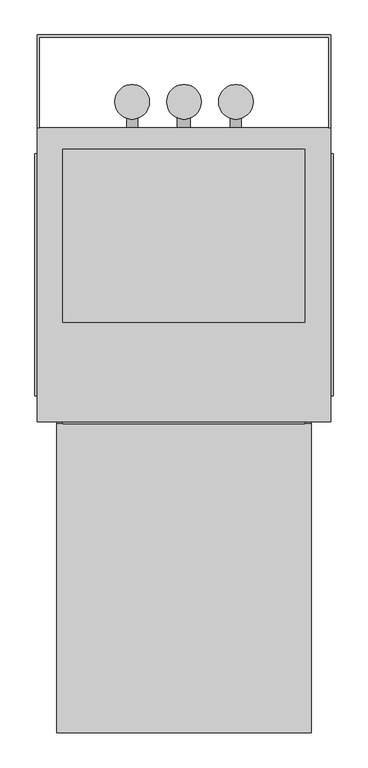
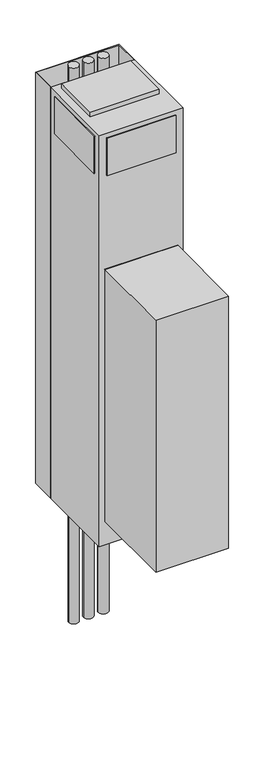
"""IFC4 building model written with IfcOpenShell, lengths in millimetres: proxy geometry, Exposed_Modular_Fan_Coil_Unit_-_MXY_-_IEC_-_2-Pipe_Cool-EHeat_-_WithRisers_2022 : Size 03 - 277v/60Hz/1Ph - 4 Row 3.0kW."""

import ifcopenshell
import ifcopenshell.guid

model = None  # the IFC model being written
_history = None  # IfcOwnerHistory: only IFC2X3 demands one
_inside = {}  # id of a spatial element -> (the spatial element, [elements in it])
_under = {}  # id of a project, library or spatial element -> (it, [spatial elements below it])
_declared = {}  # id of a project -> (the project, [libraries it declares])
_typed = {}  # id of a type object -> (the type object, [elements of that type])
_made_of = {}  # id of a material, layer set ... -> (it, [elements and type objects made of it])


def new_model(schema):
    """Start an empty IFC model of exactly this schema.

    Asked for "IFC4X3", IfcOpenShell would pick the latest addendum, in which some entities
    have other attributes; the version numbers below select the first issue.
    IFC2X3 requires an IfcOwnerHistory on every rooted entity: one is made here for all.
    """
    global model, _history
    if schema == "IFC4X3":
        model = ifcopenshell.file(schema_version=(4, 3, 0, 0))
    else:
        model = ifcopenshell.file(schema=schema)
    _inside.clear()
    _under.clear()
    _declared.clear()
    _typed.clear()
    _made_of.clear()
    _history = None
    if model.schema == "IFC2X3":
        org = make("IfcOrganization", Name="unknown")
        user = make(
            "IfcPersonAndOrganization",
            ThePerson=make("IfcPerson", FamilyName="unknown"),
            TheOrganization=org,
        )
        app = make(
            "IfcApplication",
            ApplicationDeveloper=org,
            Version="unknown",
            ApplicationFullName="unknown",
            ApplicationIdentifier="unknown",
        )
        _history = make(
            "IfcOwnerHistory",
            OwningUser=user,
            OwningApplication=app,
            ChangeAction="ADDED",
            CreationDate=0,
        )
    return model


def make(cls, **values):
    """One entity of the class cls with the attributes given. An attribute that is None is left unset."""
    return model.create_entity(
        cls, **{name: value for name, value in values.items() if value is not None}
    )


def rooted(cls, **values):
    """An entity with a GlobalId (a new one), such as an element, a storey or a relation."""
    return make(cls, GlobalId=ifcopenshell.guid.new(), OwnerHistory=_history, **values)


def si_unit(unit_type, name, prefix=None):
    """IfcSIUnit, for example si_unit("LENGTHUNIT", "METRE", prefix="MILLI")."""
    return make("IfcSIUnit", UnitType=unit_type, Prefix=prefix, Name=name)


def assignment(units):
    """IfcUnitAssignment: the units of a project."""
    return None if units is None else make("IfcUnitAssignment", Units=units)


def point(xyz):
    """IfcCartesianPoint."""
    return None if xyz is None else make("IfcCartesianPoint", Coordinates=xyz)


def direction(xyz):
    """IfcDirection."""
    return None if xyz is None else make("IfcDirection", DirectionRatios=xyz)


def frame(location, z_axis=None, x_axis=None):
    """IfcAxis2Placement3D, a coordinate frame: its origin and axes. An axis left out is left unset."""
    return make(
        "IfcAxis2Placement3D",
        Location=point(location),
        Axis=direction(z_axis),
        RefDirection=direction(x_axis),
    )


def frame_2d(location, x_axis=None):
    """IfcAxis2Placement2D, a coordinate frame in the plane: its origin and x axis."""
    return make(
        "IfcAxis2Placement2D", Location=point(location), RefDirection=direction(x_axis)
    )


def origin():
    """The frame at (0, 0, 0) with its axes left unset."""
    return frame((0.0, 0.0, 0.0))


def origin_with_axes():
    """The frame at (0, 0, 0) with the z axis (0, 0, 1) and the x axis (1, 0, 0) written out."""
    return frame((0.0, 0.0, 0.0), z_axis=(0.0, 0.0, 1.0), x_axis=(1.0, 0.0, 0.0))


def place(relative_to, where):
    """IfcLocalPlacement: puts the frame where relative to a parent placement (None: the world)."""
    return make(
        "IfcLocalPlacement", PlacementRelTo=relative_to, RelativePlacement=where
    )


def context(
    kind, dimensions, precision=None, world=None, true_north=None, identifier=None
):
    """IfcGeometricRepresentationContext, for example the 3D "Model" context."""
    return make(
        "IfcGeometricRepresentationContext",
        ContextIdentifier=identifier,
        ContextType=kind,
        CoordinateSpaceDimension=dimensions,
        Precision=precision,
        WorldCoordinateSystem=world,
        TrueNorth=true_north,
    )


def project(units=None, contexts=None):
    """IfcProject with its units and contexts."""
    return rooted(
        "IfcProject",
        Name="project",
        RepresentationContexts=contexts,
        UnitsInContext=assignment(units),
    )


def spatial(cls, under=None, at=None, **own):
    """A site, building, storey or space (cls), placed at a placement, below another one or the project."""
    s = rooted(cls, ObjectPlacement=at, **own)
    if under is not None:
        _under.setdefault(under.id(), (under, []))[1].append(s)
    return s


def polyline(points):
    """IfcPolyline through the points."""
    return make("IfcPolyline", Points=[point(p) for p in points])


def circle_curve(where, radius):
    """IfcCircle in the frame where."""
    return make("IfcCircle", Position=where, Radius=radius)


def trimmed(basis, trim1, trim2, sense, master):
    """IfcTrimmedCurve: the piece of a basis curve between two trims."""
    return make(
        "IfcTrimmedCurve",
        BasisCurve=basis,
        Trim1=trim1,
        Trim2=trim2,
        SenseAgreement=sense,
        MasterRepresentation=master,
    )


def segment(curve, same_sense, transition):
    """IfcCompositeCurveSegment."""
    return make(
        "IfcCompositeCurveSegment",
        Transition=transition,
        SameSense=same_sense,
        ParentCurve=curve,
    )


def composite_curve(segments, self_intersect=None):
    """IfcCompositeCurve: segments joined end to end."""
    return make("IfcCompositeCurve", Segments=segments, SelfIntersect=self_intersect)


def outline(outer, holes=None, kind="AREA"):
    """IfcArbitraryClosedProfileDef: a profile drawn as a closed curve; with holes, ...WithVoids."""
    if holes is None:
        return make("IfcArbitraryClosedProfileDef", ProfileType=kind, OuterCurve=outer)
    return make(
        "IfcArbitraryProfileDefWithVoids",
        ProfileType=kind,
        OuterCurve=outer,
        InnerCurves=holes,
    )


def extrude(swept, where, along, depth):
    """IfcExtrudedAreaSolid: the profile swept, set in the frame where, extruded along a direction by depth."""
    return make(
        "IfcExtrudedAreaSolid",
        SweptArea=swept,
        Position=where,
        ExtrudedDirection=direction(along),
        Depth=depth,
    )


def shape(context_of_items, identifier, shape_type, items):
    """IfcShapeRepresentation: the items that make up one representation, for example the "Body"."""
    return make(
        "IfcShapeRepresentation",
        ContextOfItems=context_of_items,
        RepresentationIdentifier=identifier,
        RepresentationType=shape_type,
        Items=items,
    )


def source(mapping_origin, context_of_items, identifier, shape_type, items):
    """IfcRepresentationMap: a shape defined once, which mapped items show again and again."""
    return make(
        "IfcRepresentationMap",
        MappingOrigin=mapping_origin,
        MappedRepresentation=shape(context_of_items, identifier, shape_type, items),
    )


def transform(
    local_origin,
    x_axis=None,
    y_axis=None,
    z_axis=None,
    scale=None,
    scale2=None,
    scale3=None,
    uniform=True,
):
    """IfcCartesianTransformationOperator3D, or its non-uniform kind. x_axis, y_axis, z_axis: its Axis1, 2, 3."""
    if uniform:
        return make(
            "IfcCartesianTransformationOperator3D",
            Axis1=direction(x_axis),
            Axis2=direction(y_axis),
            LocalOrigin=point(local_origin),
            Scale=scale,
            Axis3=direction(z_axis),
        )
    return make(
        "IfcCartesianTransformationOperator3DnonUniform",
        Axis1=direction(x_axis),
        Axis2=direction(y_axis),
        LocalOrigin=point(local_origin),
        Scale=scale,
        Axis3=direction(z_axis),
        Scale2=scale2,
        Scale3=scale3,
    )


def mapped(mapping_source, mapping_target):
    """IfcMappedItem: shows the shape of a source again, moved by a transform."""
    return make(
        "IfcMappedItem", MappingSource=mapping_source, MappingTarget=mapping_target
    )


def made_of(thing, what):
    """Note that an element or type object is made of a material, layer set ...; save() writes the relation."""
    if what is not None:
        _made_of.setdefault(what.id(), (what, []))[1].append(thing)
    return thing


def element(
    cls,
    number,
    at=None,
    inside=None,
    cuts=None,
    type_object=None,
    material=None,
    context=None,
    identifier="Body",
    shape_type=None,
    held_by="IfcProductDefinitionShape",
    body=None,
    shapes=None,
    **own,
):
    """One element of the class cls, such as IfcWall. Its Tag is "e" and its number.

    at: its placement. inside: the storey or other place that contains it. cuts: it is an
    opening in that element (IfcRelVoidsElement). A single representation is given by context,
    identifier, shape_type and body (its items); several are given by shapes. held_by: the class
    of the entity that holds the representations. save() writes the other relations.
    """
    e = rooted(cls, Tag="e%d" % number, ObjectPlacement=at, **own)
    if body is not None:
        shapes = [shape(context, identifier, shape_type, body)]
    if shapes is not None:
        e.Representation = make(held_by, Representations=shapes)
    if inside is not None:
        _inside.setdefault(inside.id(), (inside, []))[1].append(e)
    if cuts is not None:
        rooted(
            "IfcRelVoidsElement", RelatingBuildingElement=cuts, RelatedOpeningElement=e
        )
    if type_object is not None:
        _typed.setdefault(type_object.id(), (type_object, []))[1].append(e)
    return made_of(e, material)


def aggregate(whole, parts):
    """IfcRelAggregates: a whole, such as a stair, and the parts it consists of."""
    return rooted("IfcRelAggregates", RelatingObject=whole, RelatedObjects=parts)


def save(model, path):
    """Write the relations noted so far, then the file.

    IfcRelAggregates (storeys below a building ...), IfcRelContainedInSpatialStructure (elements
    in a storey), IfcRelDefinesByType, IfcRelAssociatesMaterial and IfcRelDeclares: one each for
    every whole, place, type object, material and project.
    """
    for whole, parts in _under.values():
        aggregate(whole, parts)
    for where, things in _inside.values():
        rooted(
            "IfcRelContainedInSpatialStructure",
            RelatedElements=things,
            RelatingStructure=where,
        )
    for kind, things in _typed.values():
        rooted("IfcRelDefinesByType", RelatedObjects=things, RelatingType=kind)
    for what, things in _made_of.values():
        rooted("IfcRelAssociatesMaterial", RelatedObjects=things, RelatingMaterial=what)
    for by, libraries in _declared.values():
        rooted("IfcRelDeclares", RelatingContext=by, RelatedDefinitions=libraries)
    model.write(path)


def mechanical_equipment_f6d8de75(model_context):
    return source(origin(), model_context, "Body", "SweptSolid", [
        extrude(outline(polyline([(1356.1480703, 439.8118862), (1346.2, 471.9852728), (1488.3709244, 471.9852728), (1465.3489183, 439.8118862), (1356.1480703, 439.8118862)])), frame((0.0, -193.675, 0.0), z_axis=(0.0, 1.0, 0.0), x_axis=(0.0, 0.0, 1.0)), (0.0, 0.0, 1.0), 3.175),
        extrude(outline(polyline([(1435.1473557, 478.7436058), (1431.9449632, 504.825), (1461.1738042, 504.825), (1469.2382193, 478.7436058), (1435.1473557, 478.7436058)])), frame((0.0, -193.675, 0.0), z_axis=(0.0, 1.0, 0.0), x_axis=(0.0, 0.0, 1.0)), (0.0, 0.0, 1.0), 3.175),
        extrude(outline(polyline([(1383.2838288, 504.825), (1379.6183279, 478.7436058), (1346.2, 478.7436058), (1354.8342372, 504.825), (1383.2838288, 504.825)])), frame((0.0, -193.675, 0.0), z_axis=(0.0, 1.0, 0.0), x_axis=(0.0, 0.0, 1.0)), (0.0, 0.0, 1.0), 3.175),
        extrude(outline(polyline([(1422.5989903, 504.825), (1424.8808166, 478.7436058), (1388.9432681, 478.7436058), (1391.6845331, 504.825), (1422.5989903, 504.825)])), frame((0.0, -193.675, 0.0), z_axis=(0.0, 1.0, 0.0), x_axis=(0.0, 0.0, 1.0)), (0.0, 0.0, 1.0), 3.175),
        extrude(outline(composite_curve([segment(trimmed(circle_curve(frame_2d((292.1, 282.575)), 25.4), [point((317.5, 282.575))], [point((266.7, 282.575))], False, "CARTESIAN"), True, "CONTINUOUS"), segment(trimmed(circle_curve(frame_2d((292.1, 282.575)), 25.4), [point((266.7, 282.575))], [point((317.5, 282.575))], False, "CARTESIAN"), True, "CONTINUOUS")], self_intersect=False)), frame((0.0, 0.0, -736.6), z_axis=(0.0, 0.0, 1.0), x_axis=(1.0, 0.0, 0.0)), (0.0, 0.0, 1.0), 3022.6),
        extrude(outline(composite_curve([segment(trimmed(circle_curve(frame_2d((368.3, 282.575)), 25.4), [point((393.7, 282.575))], [point((342.9, 282.575))], False, "CARTESIAN"), True, "CONTINUOUS"), segment(trimmed(circle_curve(frame_2d((368.3, 282.575)), 25.4), [point((342.9, 282.575))], [point((393.7, 282.575))], False, "CARTESIAN"), True, "CONTINUOUS")], self_intersect=False)), frame((0.0, 0.0, -736.6), z_axis=(0.0, 0.0, 1.0), x_axis=(1.0, 0.0, 0.0)), (0.0, 0.0, 1.0), 3022.6),
        extrude(outline(composite_curve([segment(trimmed(circle_curve(frame_2d((444.5, 282.575)), 25.4), [point((469.9, 282.575))], [point((419.1, 282.575))], False, "CARTESIAN"), True, "CONTINUOUS"), segment(trimmed(circle_curve(frame_2d((444.5, 282.575)), 25.4), [point((419.1, 282.575))], [point((469.9, 282.575))], False, "CARTESIAN"), True, "CONTINUOUS")], self_intersect=False)), frame((0.0, 0.0, -736.6), z_axis=(0.0, 0.0, 1.0), x_axis=(1.0, 0.0, 0.0)), (0.0, 0.0, 1.0), 3022.6),
        extrude(outline(polyline([(555.625, -190.5), (555.625, -644.525), (180.975, -644.525), (180.975, -190.5), (555.625, -190.5)])), frame((0.0, 0.0, 127.0), z_axis=(0.0, 0.0, 1.0), x_axis=(1.0, 0.0, 0.0)), (0.0, 0.0, 1.0), 1371.6),
        extrude(outline(polyline([(152.4, 381.0), (584.2, 381.0), (584.2, 244.475), (581.025, 244.475), (581.025, 377.825), (155.575, 377.825), (155.575, 244.475), (152.4, 244.475), (152.4, 381.0)])), origin_with_axes(), (0.0, 0.0, 1.0), 2235.2),
        extrude(outline(composite_curve([segment(trimmed(circle_curve(frame_2d((990.6, 444.5)), 7.9375), [point((990.6, 452.4375))], [point((990.6, 436.5625))], False, "CARTESIAN"), True, "CONTINUOUS"), segment(trimmed(circle_curve(frame_2d((990.6, 444.5)), 7.9375), [point((990.6, 436.5625))], [point((990.6, 452.4375))], False, "CARTESIAN"), True, "CONTINUOUS")], self_intersect=False)), frame((0.0, 244.475, 0.0), z_axis=(0.0, 1.0, 0.0), x_axis=(0.0, 0.0, 1.0)), (0.0, 0.0, 1.0), 25.4),
        extrude(outline(composite_curve([segment(trimmed(circle_curve(frame_2d((990.6, 292.1)), 7.9375), [point((990.6, 300.0375))], [point((990.6, 284.1625))], False, "CARTESIAN"), True, "CONTINUOUS"), segment(trimmed(circle_curve(frame_2d((990.6, 292.1)), 7.9375), [point((990.6, 284.1625))], [point((990.6, 300.0375))], False, "CARTESIAN"), True, "CONTINUOUS")], self_intersect=False)), frame((0.0, 244.475, 0.0), z_axis=(0.0, 1.0, 0.0), x_axis=(0.0, 0.0, 1.0)), (0.0, 0.0, 1.0), 25.4),
        extrude(outline(composite_curve([segment(trimmed(circle_curve(frame_2d((127.0, 368.3)), 9.525), [point((127.0, 377.825))], [point((127.0, 358.775))], False, "CARTESIAN"), True, "CONTINUOUS"), segment(trimmed(circle_curve(frame_2d((127.0, 368.3)), 9.525), [point((127.0, 358.775))], [point((127.0, 377.825))], False, "CARTESIAN"), True, "CONTINUOUS")], self_intersect=False)), frame((0.0, 244.475, 0.0), z_axis=(0.0, 1.0, 0.0), x_axis=(0.0, 0.0, 1.0)), (0.0, 0.0, 1.0), 25.4),
        extrude(outline(polyline([(555.625, -190.5), (180.975, -190.5), (180.975, -187.325), (555.625, -187.325), (555.625, -190.5)])), frame((0.0, 0.0, 127.0), z_axis=(0.0, 0.0, 1.0), x_axis=(1.0, 0.0, 0.0)), (0.0, 0.0, 1.0), 1371.6),
        extrude(outline(polyline([(587.375, 206.375), (587.375, -149.225), (584.2, -149.225), (584.2, 206.375), (587.375, 206.375)])), frame((0.0, 0.0, 2006.6), z_axis=(0.0, 0.0, 1.0), x_axis=(1.0, 0.0, 0.0)), (0.0, 0.0, 1.0), 203.2),
        extrude(outline(polyline([(149.225, -149.225), (149.225, 206.375), (152.4, 206.375), (152.4, -149.225), (149.225, -149.225)])), frame((0.0, 0.0, 2006.6), z_axis=(0.0, 0.0, 1.0), x_axis=(1.0, 0.0, 0.0)), (0.0, 0.0, 1.0), 203.2),
        extrude(outline(polyline([(546.1, -190.5), (190.5, -190.5), (190.5, -187.325), (546.1, -187.325), (546.1, -190.5)])), frame((0.0, 0.0, 2006.6), z_axis=(0.0, 0.0, 1.0), x_axis=(1.0, 0.0, 0.0)), (0.0, 0.0, 1.0), 203.2),
        extrude(outline(polyline([(546.1, 212.725), (546.1, -41.275), (190.5, -41.275), (190.5, 212.725), (546.1, 212.725)])), frame((0.0, 0.0, 2235.2), z_axis=(0.0, 0.0, 1.0), x_axis=(1.0, 0.0, 0.0)), (0.0, 0.0, 1.0), 25.4),
        extrude(outline(polyline([(584.2, 244.475), (584.2, -187.325), (152.4, -187.325), (152.4, 244.475), (584.2, 244.475)])), origin_with_axes(), (0.0, 0.0, 1.0), 2235.2),
    ])


if __name__ == "__main__":
    model = new_model("IFC4")
    model_context = context("Model", 3, world=origin())
    ifc_project = project(units=[si_unit("LENGTHUNIT", "METRE", prefix="MILLI")], contexts=[model_context])
    site = spatial("IfcSite", under=ifc_project)
    building = spatial("IfcBuilding", under=site)
    placement = place(None, origin())
    mechanical_equipment_shape = mechanical_equipment_f6d8de75(model_context)
    element("IfcBuildingElementProxy", 1, Name="Exposed_Modular_Fan_Coil_Unit_-_MXY_-_IEC_-_2-Pipe_Cool-EHeat_-_WithRisers_2022 : Size 03 - 277v/60Hz/1Ph - 4 Row 3.0kW", ObjectType="Exposed_Modular_Fan_Coil_Unit_-_MXY_-_IEC_-_2-Pipe_Cool-EHeat_-_WithRisers_2022 : Size 03 - 277v/60Hz/1Ph - 4 Row 3.0kW", at=placement, inside=building, context=model_context, shape_type="MappedRepresentation", body=[
        mapped(mechanical_equipment_shape, transform((0.0, 0.0, 0.0), x_axis=(1.0, 0.0, 0.0), y_axis=(0.0, 1.0, 0.0), z_axis=(0.0, 0.0, 1.0))),
    ])
    save(model, "model.ifc")
